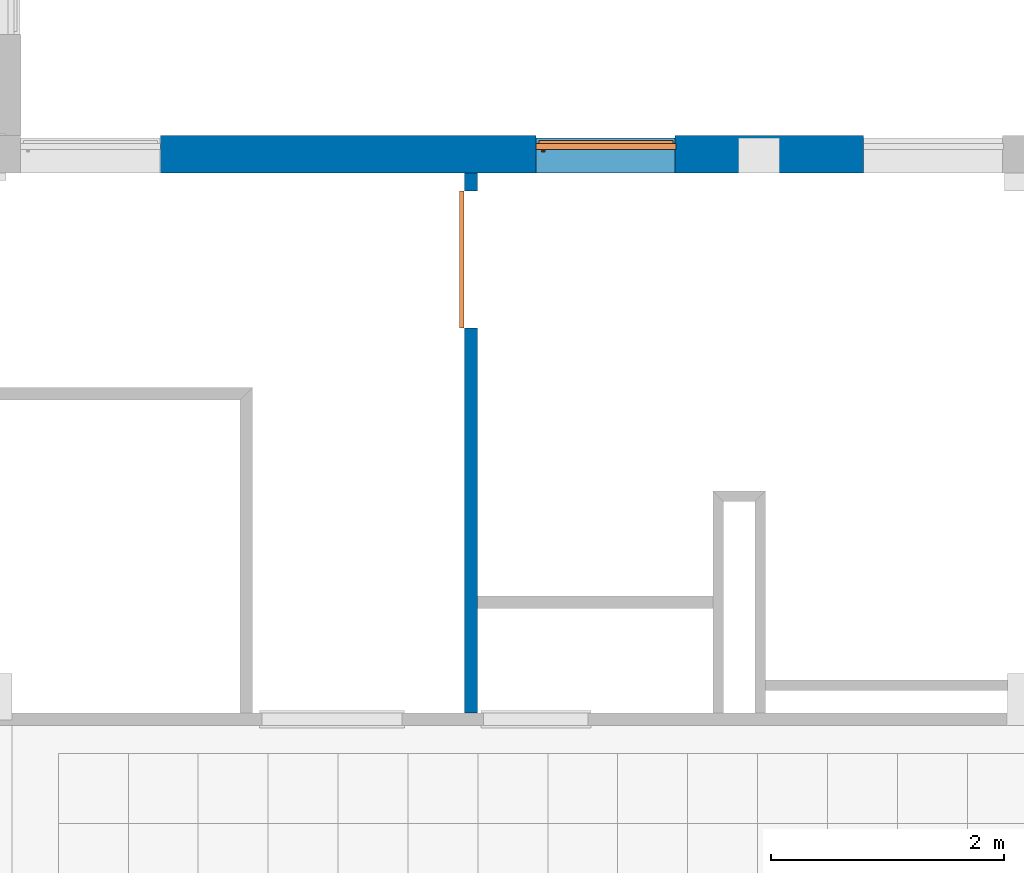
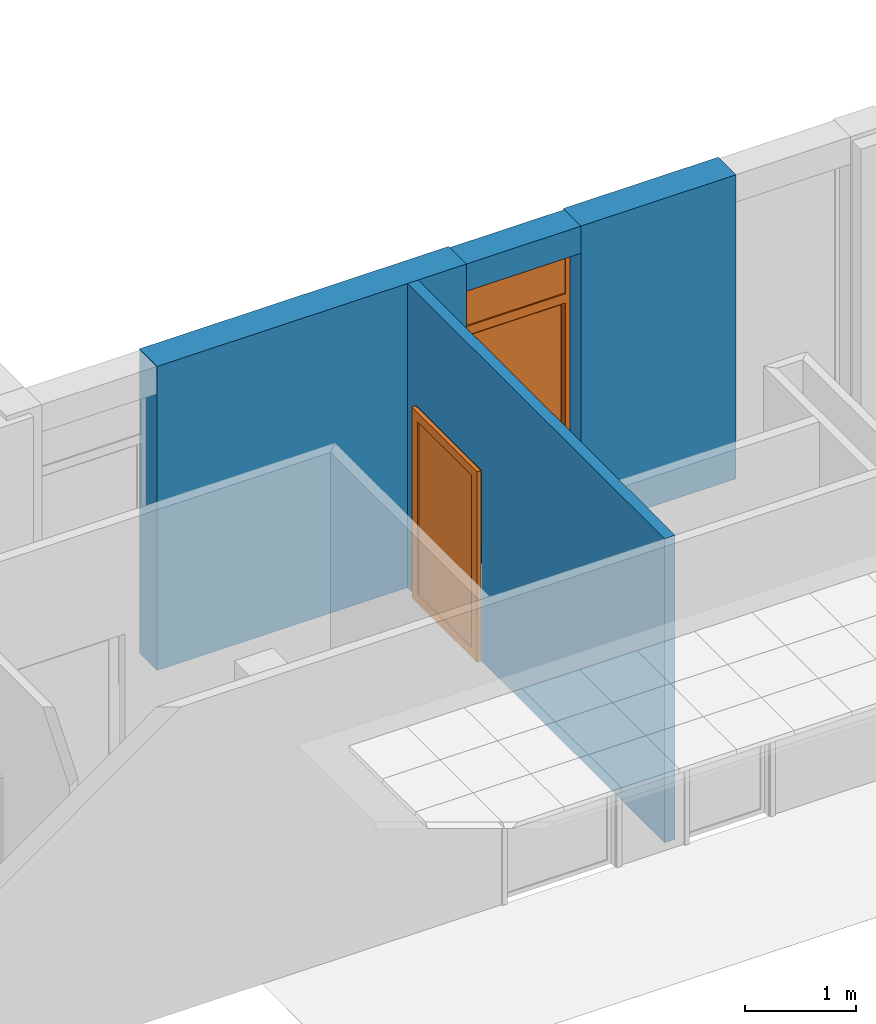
# One storey, part 25 of 60: 4 walls, 2 proxies, 2 openings.
"""IFC2X3 building model written with IfcOpenShell, lengths in millimetres."""

from ifc_helpers import new_model, entity, si_unit, converted_unit, derived_unit, money_unit, direction, frame, origin_with_axes, origin_2d_with_axis, place, context, subcontext, project, spatial, polyline, rectangle, outline, extrude, open_shell, faceted_brep, surface_model, source, transform, mapped, material, layer, layer_set, layer_usage, type_object, element, fill, save


model = new_model("IFC2X3")

# Units and contexts
model_context = context("Model", 3, precision=0.01, world=origin_with_axes(), true_north=direction((0.0, 1.0)))
body_context = subcontext(model_context, "Body", "Model", "MODEL_VIEW")
ifc_project = project(units=[si_unit("LENGTHUNIT", "METRE", prefix="MILLI"), si_unit("AREAUNIT", "SQUARE_METRE"), si_unit("VOLUMEUNIT", "CUBIC_METRE"), converted_unit("PLANEANGLEUNIT", "DEGREE", entity("IfcPlaneAngleMeasure", 0.0174532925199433), si_unit("PLANEANGLEUNIT", "RADIAN"), dimensions=[0, 0, 0, 0, 0, 0, 0]), money_unit("USD"), converted_unit("TIMEUNIT", "Year", entity("IfcTimeMeasure", 31557600.0), si_unit("TIMEUNIT", "SECOND"), dimensions=[0, 0, 1, 0, 0, 0, 0]), si_unit("MASSUNIT", "GRAM", prefix="KILO"), si_unit("THERMODYNAMICTEMPERATUREUNIT", "DEGREE_CELSIUS"), si_unit("LUMINOUSINTENSITYUNIT", "LUMEN"), si_unit("ENERGYUNIT", "JOULE", prefix="MEGA"), derived_unit("THERMALCONDUCTANCEUNIT", [(si_unit("POWERUNIT", "WATT"), 1), (si_unit("LENGTHUNIT", "METRE"), -1), (si_unit("THERMODYNAMICTEMPERATUREUNIT", "KELVIN"), -1)]), derived_unit("SPECIFICHEATCAPACITYUNIT", [(si_unit("ENERGYUNIT", "JOULE"), 1), (si_unit("MASSUNIT", "GRAM", prefix="KILO"), -1), (si_unit("THERMODYNAMICTEMPERATUREUNIT", "KELVIN"), -1)]), derived_unit("MASSDENSITYUNIT", [(si_unit("MASSUNIT", "GRAM", prefix="KILO"), 1), (si_unit("VOLUMEUNIT", "CUBIC_METRE"), -1)])], contexts=[model_context])

# Site, building, storey
site_placement = place(None, origin_with_axes())
site = spatial("IfcSite", under=ifc_project, at=site_placement, Name="Sitio", CompositionType="ELEMENT")
building_placement = place(site_placement, origin_with_axes())
building = spatial("IfcBuilding", under=site, at=building_placement, Name="Construcción", CompositionType="ELEMENT")
storey_placement = place(building_placement, frame((0.0, 0.0, 3650.0), z_axis=(0.0, 0.0, 1.0), x_axis=(1.0, 0.0, 0.0)))
storey = spatial("IfcBuildingStorey", under=building, at=storey_placement, Name="PLANTA 2ª", CompositionType="ELEMENT", Elevation=3650.0)

# Wall, opening, proxy
ifc_material_1 = material(Name="ARQ_AM246_Arrebossat_De_Guix")
ifc_layer_1 = layer(ifc_material_1, 20.0, ventilated="UNKNOWN")
ifc_material_2 = material(Name="ARQ_CE217_Gero")
ifc_layer_2 = layer(ifc_material_2, 110.0, ventilated="UNKNOWN")
ifc_material_3 = material(Name="ARQ_AI031_Aillament_Poliestireno expandido EPS")
ifc_layer_3 = layer(ifc_material_3, 100.0, ventilated="UNKNOWN")
ifc_material_4 = material(Name="ARQ_CE218_Ceramic")
ifc_layer_4 = layer(ifc_material_4, 50.0, ventilated="UNKNOWN")
ifc_layer_5 = layer(ifc_material_1, 20.0, ventilated="UNKNOWN")
ifc_layer_set_1 = layer_set([ifc_layer_1, ifc_layer_2, ifc_layer_3, ifc_layer_4, ifc_layer_5], Name="façana pati CR3 (ampit)")
ifc_layer_usage_1 = layer_usage(ifc_layer_set_1, "AXIS2", "POSITIVE", -300.0000000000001)
wall_type_1 = type_object("IfcWallType", Name="façana pati CR3 (ampit) 300", PredefinedType="NOTDEFINED")
wall_1_placement = place(storey_placement, frame((-22076.10900490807, -12338.97582371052, 0.0), z_axis=(0.0, 0.0, 1.0), x_axis=(-1.0, 0.0, 0.0)))
wall_1 = element("IfcWallStandardCase", 1, at=wall_1_placement, inside=storey, type_object=wall_type_1, material=ifc_layer_usage_1, Name="MS-201", context=body_context, shape_type="SweptSolid", body=[
    extrude(outline(polyline([(0.0, -300.0000000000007), (1194.999999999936, -300.0000000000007), (1194.999999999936, 0.0), (0.0, 0.0), (0.0, -300.0000000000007)])), origin_with_axes(), (0.0, 0.0, 1.0), 3350.0),
])
opening_1_placement = place(wall_1_placement, frame((594.9999999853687, 0.0, 49.99999999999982), z_axis=(0.0, 0.0, 1.0), x_axis=(1.0, 0.0, 0.0)))
opening_1 = element("IfcOpeningElement", 2, at=opening_1_placement, cuts=wall_1, Name="V - 008", context=body_context, shape_type="SweptSolid", body=[
    extrude(rectangle(XDim=1200.000000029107, YDim=3000.0, at=origin_2d_with_axis()), frame((0.0, -250.0, 1500.0), z_axis=(0.0, -1.0, 0.0), x_axis=(-1.0, 0.0, 0.0)), (0.0, 0.0, -1.0), 550.0),
    extrude(rectangle(XDim=1200.000000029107, YDim=3000.0, at=origin_2d_with_axis()), frame((0.0, -250.0, 1500.0), z_axis=(0.0, 1.0, 0.0), x_axis=(-1.0, 0.0, 0.0)), (0.0, 0.0, -1.0), 350.0000000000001),
])
building_element_proxy_type_1 = type_object("IfcBuildingElementProxyType", Name="Ventana Vertical Multi-Faja 27", PredefinedType="NOTDEFINED")
shared_shape_1 = source(origin_with_axes(), body_context, "Body", "SurfaceModel", [
    faceted_brep([(-575.0000000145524, 0.0, 925.0), (-550.0000000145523, 0.0, 925.0), (-550.0000000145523, 0.0, 850.0), (-550.0000000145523, 0.0, 50.00000000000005), (-600.0000000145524, 0.0, 50.00000000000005), (-600.0000000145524, 0.0, 2950.0), (-550.0000000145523, 0.0, 2950.0), (-550.0000000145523, 0.0, 2450.0), (-550.0000000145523, 0.0, 2375.0), (-575.0000000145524, 0.0, 2375.0), (-575.0000000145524, -25.00000000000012, 925.0), (-550.0000000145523, -25.00000000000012, 925.0), (-550.0000000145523, -25.00000000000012, 950.0000000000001), (-550.0000000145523, -50.00000000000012, 950.0000000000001), (-550.0000000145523, -50.00000000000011, 850.0), (-550.0000000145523, -50.00000000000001, 50.00000000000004), (-600.0000000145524, -50.00000000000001, 50.00000000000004), (-600.0000000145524, -50.00000000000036, 2950.0), (-550.0000000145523, -50.00000000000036, 2950.0), (-550.0000000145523, -50.0000000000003, 2450.0), (-550.0000000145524, -25.00000000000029, 2375.0), (-550.0000000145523, -50.00000000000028, 2350.0), (-550.0000000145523, -25.00000000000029, 2350.0), (-575.0000000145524, -25.00000000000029, 2375.0)], [[[0, 1, 2, 3, 4, 5, 6, 7, 8, 9]], [[0, 10, 11, 1]], [[11, 12, 13, 14, 2, 1]], [[3, 2, 14, 15]], [[4, 3, 15, 16]], [[5, 4, 16, 17]], [[6, 5, 17, 18]], [[7, 6, 18, 19]], [[20, 8, 7, 19, 21, 22]], [[20, 23, 9, 8]], [[9, 23, 10, 0]], [[22, 12, 11, 10, 23, 20]], [[22, 21, 13, 12]], [[17, 16, 15, 14, 13, 21, 19, 18]]]),
    faceted_brep([(575.0000000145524, 0.0, 925.0), (575.0000000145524, 0.0, 2375.0), (550.0000000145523, 0.0, 2375.0), (550.0000000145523, 0.0, 2450.0), (550.0000000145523, 0.0, 2950.0), (600.0000000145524, 0.0, 2950.0), (600.0000000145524, 0.0, 50.00000000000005), (550.0000000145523, 0.0, 50.00000000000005), (550.0000000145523, 0.0, 850.0), (550.0000000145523, 0.0, 925.0), (575.0000000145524, -25.00000000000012, 925.0), (575.0000000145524, -25.00000000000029, 2375.0), (550.0000000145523, -25.00000000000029, 2375.0), (550.0000000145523, -25.00000000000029, 2350.0), (550.0000000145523, -50.00000000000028, 2350.0), (550.0000000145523, -50.0000000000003, 2450.0), (550.0000000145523, -50.00000000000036, 2950.0), (600.0000000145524, -50.00000000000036, 2950.0), (600.0000000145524, -50.00000000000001, 50.00000000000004), (550.0000000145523, -50.00000000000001, 50.00000000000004), (550.0000000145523, -50.00000000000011, 850.0), (550.0000000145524, -25.00000000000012, 925.0), (550.0000000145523, -50.00000000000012, 950.0000000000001), (550.0000000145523, -25.00000000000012, 950.0000000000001)], [[[0, 1, 2, 3, 4, 5, 6, 7, 8, 9]], [[0, 10, 11, 1]], [[1, 11, 12, 2]], [[12, 13, 14, 15, 3, 2]], [[4, 3, 15, 16]], [[5, 4, 16, 17]], [[6, 5, 17, 18]], [[7, 6, 18, 19]], [[8, 7, 19, 20]], [[21, 9, 8, 20, 22, 23]], [[9, 21, 10, 0]], [[12, 11, 10, 21, 23, 13]], [[23, 22, 14, 13]], [[14, 22, 20, 19, 18, 17, 16, 15]]]),
    faceted_brep([(-550.0000000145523, -25.00000000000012, 950.0000000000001), (-550.0000000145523, -50.00000000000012, 950.0000000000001), (550.0000000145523, -50.00000000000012, 950.0000000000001), (550.0000000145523, -25.00000000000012, 950.0000000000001), (-550.0000000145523, -25.00000000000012, 925.0), (-550.0000000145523, 0.0, 925.0), (-550.0000000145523, 0.0, 850.0), (-550.0000000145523, -50.00000000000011, 850.0), (550.0000000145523, -50.00000000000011, 850.0), (550.0000000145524, -25.00000000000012, 925.0), (550.0000000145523, 0.0, 850.0), (550.0000000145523, 0.0, 925.0)], [[[0, 1, 2, 3]], [[4, 5, 6, 7, 1, 0]], [[1, 7, 8, 2]], [[9, 3, 2, 8, 10, 11]], [[9, 4, 0, 3]], [[5, 4, 9, 11]], [[11, 10, 6, 5]], [[6, 10, 8, 7]]]),
    faceted_brep([(-550.0000000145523, 0.0, 2375.0), (-550.0000000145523, 0.0, 2450.0), (550.0000000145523, 0.0, 2450.0), (550.0000000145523, 0.0, 2375.0), (-550.0000000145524, -25.00000000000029, 2375.0), (-550.0000000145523, -25.00000000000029, 2350.0), (-550.0000000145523, -50.00000000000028, 2350.0), (-550.0000000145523, -50.0000000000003, 2450.0), (550.0000000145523, -50.0000000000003, 2450.0), (550.0000000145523, -25.00000000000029, 2375.0), (550.0000000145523, -50.00000000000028, 2350.0), (550.0000000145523, -25.00000000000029, 2350.0)], [[[0, 1, 2, 3]], [[4, 5, 6, 7, 1, 0]], [[2, 1, 7, 8]], [[9, 3, 2, 8, 10, 11]], [[9, 4, 0, 3]], [[11, 5, 4, 9]], [[11, 10, 6, 5]], [[7, 6, 10, 8]]]),
    faceted_brep([(550.0000000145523, -50.00000000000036, 2950.0), (550.0000000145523, 0.0, 2950.0), (600.0000000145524, 0.0, 2950.0), (600.0000000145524, -50.00000000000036, 2950.0), (-550.0000000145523, -50.00000000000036, 2950.0), (-550.0000000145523, 0.0, 2950.0), (-600.0000000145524, 0.0, 2950.0), (-600.0000000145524, 0.0, 3000.0), (600.0000000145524, 0.0, 3000.0), (600.0000000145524, -50.00000000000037, 3000.0), (-600.0000000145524, -50.00000000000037, 3000.0), (-600.0000000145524, -50.00000000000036, 2950.0)], [[[0, 1, 2, 3]], [[4, 5, 1, 0]], [[1, 5, 6, 7, 8, 2]], [[3, 2, 8, 9]], [[0, 3, 9, 10, 11, 4]], [[11, 6, 5, 4]], [[10, 7, 6, 11]], [[9, 8, 7, 10]]]),
    faceted_brep([(-550.0000000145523, -50.00000000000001, 50.0), (-550.0000000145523, 0.0, 50.00000000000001), (-600.0000000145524, 0.0, 50.00000000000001), (-600.0000000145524, -50.00000000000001, 50.0), (550.0000000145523, -50.00000000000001, 50.0), (550.0000000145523, 0.0, 50.00000000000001), (600.0000000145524, 0.0, 50.00000000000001), (600.0000000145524, 0.0, 0.0), (-600.0000000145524, 0.0, 0.0), (-600.0000000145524, -50.0, 0.0), (600.0000000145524, -50.0, 0.0), (600.0000000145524, -50.00000000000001, 50.0)], [[[0, 1, 2, 3]], [[4, 5, 1, 0]], [[1, 5, 6, 7, 8, 2]], [[3, 2, 8, 9]], [[0, 3, 9, 10, 11, 4]], [[11, 6, 5, 4]], [[10, 7, 6, 11]], [[9, 8, 7, 10]]]),
    surface_model("IfcShellBasedSurfaceModel", [(-550.0000000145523, -35.0, 49.99999999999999), (550.0000000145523, -35.0, 49.99999999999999), (550.0000000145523, -35.0000000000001, 850.0), (-550.0000000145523, -35.0000000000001, 850.0)], [open_shell([[[0, 1, 2, 3]]])]),
    surface_model("IfcShellBasedSurfaceModel", [(-550.0000000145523, -15.0, 49.99999999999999), (-550.0000000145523, -15.0000000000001, 850.0), (550.0000000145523, -15.0000000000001, 850.0), (550.0000000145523, -15.0, 49.99999999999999)], [open_shell([[[0, 1, 2, 3]]])]),
    faceted_brep([(-521.5000000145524, -25.00000000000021, 1677.0), (-522.839745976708, -25.00000000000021, 1682.0), (-522.839745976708, -37.00000000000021, 1682.0), (-521.5000000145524, -37.00000000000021, 1677.0), (-521.5000000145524, -25.0000000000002, 1623.0), (-522.839745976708, -25.0000000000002, 1618.0), (-526.5000000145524, -25.0000000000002, 1614.339745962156), (-531.5000000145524, -25.0000000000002, 1613.0), (-543.5000000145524, -25.0000000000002, 1613.0), (-548.5000000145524, -25.0000000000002, 1614.339745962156), (-552.1602540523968, -25.0000000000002, 1618.0), (-553.5000000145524, -25.0000000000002, 1623.0), (-553.5000000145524, -25.00000000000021, 1677.0), (-552.1602540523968, -25.00000000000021, 1682.0), (-548.5000000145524, -25.00000000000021, 1685.660254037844), (-543.5000000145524, -25.00000000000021, 1687.0), (-531.5000000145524, -25.00000000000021, 1687.0), (-526.5000000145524, -25.00000000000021, 1685.660254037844), (-526.5000000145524, -37.00000000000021, 1685.660254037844), (-531.5000000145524, -37.00000000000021, 1687.0), (-543.5000000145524, -37.00000000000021, 1687.0), (-548.5000000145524, -37.00000000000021, 1685.660254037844), (-552.1602540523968, -37.00000000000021, 1682.0), (-553.5000000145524, -37.00000000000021, 1677.0), (-553.5000000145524, -37.0000000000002, 1623.0), (-552.1602540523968, -37.0000000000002, 1618.0), (-548.5000000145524, -37.0000000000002, 1614.339745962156), (-543.5000000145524, -37.0000000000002, 1613.0), (-531.5000000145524, -37.0000000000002, 1613.0), (-526.5000000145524, -37.0000000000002, 1614.339745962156), (-522.839745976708, -37.0000000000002, 1618.0), (-521.5000000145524, -37.0000000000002, 1623.0)], [[[0, 1, 2, 3]], [[0, 4, 5, 6, 7, 8, 9, 10, 11, 12, 13, 14, 15, 16, 17, 1]], [[1, 17, 18, 2]], [[3, 2, 18, 19, 20, 21, 22, 23, 24, 25, 26, 27, 28, 29, 30, 31]], [[4, 0, 3, 31]], [[5, 4, 31, 30]], [[6, 5, 30, 29]], [[7, 6, 29, 28]], [[8, 7, 28, 27]], [[9, 8, 27, 26]], [[10, 9, 26, 25]], [[11, 10, 25, 24]], [[12, 11, 24, 23]], [[13, 12, 23, 22]], [[14, 13, 22, 21]], [[15, 14, 21, 20]], [[16, 15, 20, 19]], [[17, 16, 19, 18]]]),
    faceted_brep([(-537.5000000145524, -37.0000000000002, 1663.5), (-544.2500000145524, -37.0000000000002, 1661.69134295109), (-544.2500000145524, -61.00000000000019, 1661.69134295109), (-537.5000000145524, -61.00000000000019, 1663.5), (-530.7500000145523, -37.0000000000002, 1661.69134295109), (-525.8086570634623, -37.0000000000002, 1656.75), (-524.0000000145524, -37.0000000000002, 1650.0), (-525.8086570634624, -37.0000000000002, 1643.25), (-530.7500000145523, -37.0000000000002, 1638.30865704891), (-537.5000000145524, -37.0000000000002, 1636.5), (-544.2500000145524, -37.0000000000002, 1638.30865704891), (-549.1913429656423, -37.0000000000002, 1643.25), (-551.0000000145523, -37.0000000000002, 1650.0), (-549.1913429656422, -37.0000000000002, 1656.75), (-549.1913429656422, -61.00000000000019, 1656.75), (-551.0000000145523, -61.00000000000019, 1650.0), (-549.1913429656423, -61.00000000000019, 1643.25), (-544.2500000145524, -61.00000000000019, 1638.30865704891), (-537.5000000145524, -61.00000000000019, 1636.5), (-530.7500000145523, -61.00000000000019, 1638.30865704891), (-525.8086570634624, -61.00000000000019, 1643.25), (-524.0000000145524, -61.00000000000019, 1650.0), (-525.8086570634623, -61.00000000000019, 1656.75), (-530.7500000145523, -61.00000000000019, 1661.69134295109)], [[[0, 1, 2, 3]], [[0, 4, 5, 6, 7, 8, 9, 10, 11, 12, 13, 1]], [[1, 13, 14, 2]], [[3, 2, 14, 15, 16, 17, 18, 19, 20, 21, 22, 23]], [[4, 0, 3, 23]], [[5, 4, 23, 22]], [[6, 5, 22, 21]], [[7, 6, 21, 20]], [[8, 7, 20, 19]], [[9, 8, 19, 18]], [[10, 9, 18, 17]], [[11, 10, 17, 16]], [[12, 11, 16, 15]], [[13, 12, 15, 14]]]),
    faceted_brep([(-526.0000000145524, -61.00000000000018, 1543.0), (-537.5000000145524, -61.00000000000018, 1540.0), (-549.0000000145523, -61.00000000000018, 1543.0), (-551.0000000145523, -61.00000000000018, 1546.0), (-551.0000000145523, -61.00000000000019, 1650.0), (-549.1913429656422, -61.00000000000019, 1656.75), (-544.2500000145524, -61.00000000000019, 1661.69134295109), (-537.5000000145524, -61.00000000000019, 1663.5), (-530.7500000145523, -61.00000000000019, 1661.69134295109), (-525.8086570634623, -61.00000000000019, 1656.75), (-524.0000000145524, -61.00000000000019, 1650.0), (-524.0000000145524, -61.00000000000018, 1546.0), (-525.9999999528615, -69.00000000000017, 1543.000000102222), (-537.4999999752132, -69.00000000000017, 1539.999999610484), (-548.9999999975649, -69.00000000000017, 1543.000000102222), (-551.0000003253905, -69.00000000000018, 1545.999999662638), (-551.0000003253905, -69.0000000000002, 1649.99999994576), (-549.1913430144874, -69.0000000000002, 1656.749999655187), (-544.2499996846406, -69.0000000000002, 1661.691342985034), (-537.4999999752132, -69.0000000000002, 1663.500000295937), (-530.7500002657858, -69.0000000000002, 1661.691342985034), (-525.808656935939, -69.0000000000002, 1656.749999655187), (-523.9999996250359, -69.0000000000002, 1649.99999994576), (-523.9999996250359, -69.00000000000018, 1545.999999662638), (-527.8625374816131, -71.99999956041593, 1545.61451963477), (-537.4999999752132, -71.99999956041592, 1543.100398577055), (-547.1374624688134, -71.99999956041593, 1545.61451963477), (-548.0000007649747, -71.99999956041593, 1546.908326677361), (-548.0000007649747, -71.99999956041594, 1649.605042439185), (-546.5016170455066, -71.99999956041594, 1655.197085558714), (-542.6970855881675, -71.99999956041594, 1659.001617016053), (-537.4999999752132, -71.99999956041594, 1660.394172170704), (-532.302914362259, -71.99999956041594, 1659.001617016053), (-528.4983829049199, -71.99999956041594, 1655.197085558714), (-526.9999991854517, -71.99999956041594, 1649.605042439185), (-526.9999991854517, -71.99999956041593, 1546.908326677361)], [[[0, 1, 2, 3, 4, 5, 6, 7, 8, 9, 10, 11]], [[1, 0, 12, 13]], [[2, 1, 13, 14]], [[3, 2, 14, 15]], [[4, 3, 15, 16]], [[5, 4, 16, 17]], [[6, 5, 17, 18]], [[7, 6, 18, 19]], [[8, 7, 19, 20]], [[9, 8, 20, 21]], [[10, 9, 21, 22]], [[11, 10, 22, 23]], [[0, 11, 23, 12]], [[13, 12, 24, 25]], [[14, 13, 25, 26]], [[15, 14, 26, 27]], [[16, 15, 27, 28]], [[17, 16, 28, 29]], [[18, 17, 29, 30]], [[19, 18, 30, 31]], [[20, 19, 31, 32]], [[21, 20, 32, 33]], [[22, 21, 33, 34]], [[23, 22, 34, 35]], [[12, 23, 35, 24]], [[26, 25, 24, 35, 34, 33, 32, 31, 30, 29, 28, 27]]]),
    faceted_brep([(-525.0000000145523, -25.00000000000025, 2325.0), (-525.0000000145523, 24.99999999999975, 2325.0), (-575.0000000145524, 24.99999999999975, 2325.0), (-575.0000000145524, -25.00000000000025, 2325.0), (-525.0000000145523, -25.00000000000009, 975.0000000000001), (-525.0000000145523, 24.99999999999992, 975.0000000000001), (-575.0000000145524, 24.99999999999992, 975.0000000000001), (-575.0000000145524, -25.00000000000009, 975.0000000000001)], [[[0, 1, 2, 3]], [[4, 5, 1, 0]], [[1, 5, 6, 2]], [[3, 2, 6, 7]], [[0, 3, 7, 4]], [[7, 6, 5, 4]]]),
    faceted_brep([(525.0000000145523, -25.00000000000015, 975.0000000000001), (525.0000000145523, 24.99999999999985, 975.0000000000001), (575.0000000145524, 24.99999999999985, 975.0000000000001), (575.0000000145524, -25.00000000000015, 975.0000000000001), (525.0000000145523, -25.00000000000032, 2325.0), (525.0000000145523, 24.99999999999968, 2325.0), (575.0000000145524, 24.99999999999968, 2325.0), (575.0000000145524, -25.00000000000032, 2325.0)], [[[0, 1, 2, 3]], [[4, 5, 1, 0]], [[1, 5, 6, 2]], [[3, 2, 6, 7]], [[0, 3, 7, 4]], [[7, 6, 5, 4]]]),
    faceted_brep([(575.0000000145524, -25.00000000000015, 925.0), (575.0000000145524, 24.99999999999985, 925.0), (575.0000000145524, 24.99999999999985, 975.0000000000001), (575.0000000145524, -25.00000000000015, 975.0000000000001), (-575.0000000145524, -25.00000000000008, 925.0), (-575.0000000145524, 24.99999999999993, 925.0), (-575.0000000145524, 24.99999999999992, 975.0000000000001), (-525.0000000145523, 24.99999999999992, 975.0000000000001), (525.0000000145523, 24.99999999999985, 975.0000000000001), (525.0000000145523, -25.00000000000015, 975.0000000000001), (-525.0000000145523, -25.00000000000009, 975.0000000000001), (-575.0000000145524, -25.00000000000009, 975.0000000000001)], [[[0, 1, 2, 3]], [[4, 5, 1, 0]], [[1, 5, 6, 7, 8, 2]], [[3, 2, 8, 9]], [[0, 3, 9, 10, 11, 4]], [[11, 6, 5, 4]], [[10, 7, 6, 11]], [[9, 8, 7, 10]]]),
    faceted_brep([(-575.0000000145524, -25.00000000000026, 2375.0), (-575.0000000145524, 24.99999999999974, 2375.0), (-575.0000000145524, 24.99999999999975, 2325.0), (-575.0000000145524, -25.00000000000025, 2325.0), (575.0000000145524, -25.00000000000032, 2375.0), (575.0000000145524, 24.99999999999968, 2375.0), (575.0000000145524, 24.99999999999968, 2325.0), (525.0000000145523, 24.99999999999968, 2325.0), (-525.0000000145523, 24.99999999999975, 2325.0), (-525.0000000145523, -25.00000000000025, 2325.0), (525.0000000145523, -25.00000000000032, 2325.0), (575.0000000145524, -25.00000000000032, 2325.0)], [[[0, 1, 2, 3]], [[4, 5, 1, 0]], [[1, 5, 6, 7, 8, 2]], [[3, 2, 8, 9]], [[0, 3, 9, 10, 11, 4]], [[11, 6, 5, 4]], [[10, 7, 6, 11]], [[9, 8, 7, 10]]]),
    surface_model("IfcShellBasedSurfaceModel", [(-525.0000000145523, -10.00000000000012, 975.0000000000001), (525.0000000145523, -10.00000000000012, 975.0000000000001), (525.0000000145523, -10.00000000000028, 2325.0), (-525.0000000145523, -10.00000000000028, 2325.0)], [open_shell([[[0, 1, 2, 3]]])]),
    surface_model("IfcShellBasedSurfaceModel", [(-525.0000000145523, 9.999999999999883, 975.0000000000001), (-525.0000000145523, 9.99999999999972, 2325.0), (525.0000000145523, 9.99999999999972, 2325.0), (525.0000000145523, 9.999999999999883, 975.0000000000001)], [open_shell([[[0, 1, 2, 3]]])]),
    surface_model("IfcShellBasedSurfaceModel", [(-550.0000000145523, -35.0000000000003, 2450.0), (550.0000000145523, -35.0000000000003, 2450.0), (550.0000000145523, -35.00000000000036, 2950.0), (-550.0000000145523, -35.00000000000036, 2950.0)], [open_shell([[[0, 1, 2, 3]]])]),
    surface_model("IfcShellBasedSurfaceModel", [(-550.0000000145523, -15.0000000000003, 2450.0), (-550.0000000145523, -15.00000000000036, 2950.0), (550.0000000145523, -15.00000000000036, 2950.0), (550.0000000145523, -15.0000000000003, 2450.0)], [open_shell([[[0, 1, 2, 3]]])]),
])
proxy_1_placement = place(opening_1_placement, frame((600.0000000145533, 0.0, 0.0), z_axis=(0.0, 0.0, 1.0), x_axis=(-1.0, 0.0, 0.0)))
proxy_1 = element("IfcBuildingElementProxy", 3, at=proxy_1_placement, inside=storey, type_object=building_element_proxy_type_1, Name="V - 008", context=body_context, shape_type="MappedRepresentation", body=[
    mapped(shared_shape_1, transform((600.0000000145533, 250.0, 0.0))),
])
fill(opening_1, proxy_1)

# Walls
ifc_layer_6 = layer(ifc_material_2, 150.0, ventilated="UNKNOWN")
ifc_layer_7 = layer(ifc_material_3, 100.0, ventilated="UNKNOWN")
ifc_layer_8 = layer(ifc_material_4, 50.0, ventilated="UNKNOWN")
ifc_layer_9 = layer(ifc_material_1, 20.0, ventilated="UNKNOWN")
ifc_layer_set_2 = layer_set([ifc_layer_6, ifc_layer_7, ifc_layer_8, ifc_layer_9], Name="façana pati CR3")
ifc_layer_usage_2 = layer_usage(ifc_layer_set_2, "AXIS2", "POSITIVE", -320.0)
wall_type_2 = type_object("IfcWallType", Name="façana pati CR3 320", PredefinedType="NOTDEFINED")
wall_2_placement = place(storey_placement, frame((-23271.109004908, -12338.97582371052, 0.0), z_axis=(0.0, 0.0, 1.0), x_axis=(-1.0, 0.0, 0.0)))
element("IfcWallStandardCase", 4, at=wall_2_placement, inside=storey, type_object=wall_type_2, material=ifc_layer_usage_2, Name="MS-201", context=body_context, shape_type="SweptSolid", body=[
    extrude(outline(polyline([(0.0, -320.0000000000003), (3221.416870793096, -320.0000000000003), (3221.416870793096, 0.0), (0.0, 0.0), (0.0, -320.0000000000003)])), origin_with_axes(), (0.0, 0.0, 1.0), 3350.0),
])
ifc_layer_usage_3 = layer_usage(ifc_layer_set_2, "AXIS2", "POSITIVE", -320.0)
wall_3_placement = place(storey_placement, frame((-20461.10900490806, -12338.97582371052, 0.0), z_axis=(0.0, 0.0, 1.0), x_axis=(-1.0, 0.0, 0.0)))
element("IfcWallStandardCase", 5, at=wall_3_placement, inside=storey, type_object=wall_type_2, material=ifc_layer_usage_3, Name="MS-201", context=body_context, shape_type="SweptSolid", body=[
    extrude(outline(polyline([(0.0, -320.0000000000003), (1615.000000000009, -320.0000000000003), (1615.000000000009, 0.0), (0.0, 0.0), (0.0, -320.0000000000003)])), origin_with_axes(), (0.0, 0.0, 1.0), 3350.0),
])

# Wall, opening, proxy
ifc_layer_10 = layer(ifc_material_1, 10.0, ventilated="UNKNOWN")
ifc_layer_11 = layer(ifc_material_2, 90.0, ventilated="UNKNOWN")
ifc_layer_12 = layer(ifc_material_1, 10.0, ventilated="UNKNOWN")
ifc_layer_set_3 = layer_set([ifc_layer_10, ifc_layer_11, ifc_layer_12], Name="CR Enva Totxana")
ifc_layer_usage_4 = layer_usage(ifc_layer_set_3, "AXIS2", "POSITIVE", 0.0)
wall_type_3 = type_object("IfcWallType", Name="CR Enva Totxana 110", PredefinedType="NOTDEFINED")
wall_4_placement = place(storey_placement, frame((-23772.67583112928, -17083.97582371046, 0.0), z_axis=(0.0, 0.0, 1.0), x_axis=(0.0, 1.0, 0.0)))
wall_4 = element("IfcWallStandardCase", 6, at=wall_4_placement, inside=storey, type_object=wall_type_3, material=ifc_layer_usage_4, Name="MS-201", context=body_context, shape_type="SweptSolid", body=[
    extrude(outline(polyline([(110.000000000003, 0.0), (4744.999999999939, 0.0), (4744.999999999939, 109.9999999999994), (110.000000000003, 109.9999999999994), (110.000000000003, 0.0)])), origin_with_axes(), (0.0, 0.0, 1.0), 3350.0),
])
opening_2_placement = place(wall_4_placement, frame((3999.999835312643, 0.0, 0.0), z_axis=(0.0, 0.0, 1.0), x_axis=(1.0, 0.0, 0.0)))
opening_2 = element("IfcOpeningElement", 7, at=opening_2_placement, cuts=wall_4, Name="PF-13D", context=body_context, shape_type="SweptSolid", body=[
    extrude(rectangle(XDim=1174.000000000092, YDim=2100.0, at=origin_2d_with_axis()), frame((0.0, -109.9999999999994, 1050.0), z_axis=(0.0, -1.0, 0.0), x_axis=(-1.0, 0.0, 0.0)), (0.0, 0.0, -1.0), 329.9999999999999),
])
building_element_proxy_type_2 = type_object("IfcBuildingElementProxyType", Name="Puerta Corredera Exterior 27", PredefinedType="NOTDEFINED")
shared_shape_2 = source(origin_with_axes(), body_context, "Body", "SurfaceModel", [
    faceted_brep([(-587.0000000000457, 44.99999999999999, 100.0), (-487.0000000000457, 44.99999999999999, 100.0), (-487.0000000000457, 4.99999999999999, 100.0), (-587.0000000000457, 4.99999999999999, 100.0), (-587.0000000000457, 44.99999999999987, 2000.0), (-487.0000000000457, 44.99999999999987, 2000.0), (-487.0000000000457, 4.999999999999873, 2000.0), (-587.0000000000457, 4.999999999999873, 2000.0)], [[[0, 1, 2, 3]], [[0, 4, 5, 1]], [[1, 5, 6, 2]], [[3, 2, 6, 7]], [[4, 0, 3, 7]], [[5, 4, 7, 6]]]),
    faceted_brep([(587.0000000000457, 44.99999999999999, 100.0), (587.0000000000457, 44.99999999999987, 2000.0), (587.0000000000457, 4.999999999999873, 2000.0), (587.0000000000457, 4.99999999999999, 100.0), (487.0000000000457, 44.99999999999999, 100.0), (487.0000000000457, 44.99999999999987, 2000.0), (487.0000000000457, 4.999999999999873, 2000.0), (487.0000000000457, 4.99999999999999, 100.0)], [[[0, 1, 2, 3]], [[0, 4, 5, 1]], [[1, 5, 6, 2]], [[3, 2, 6, 7]], [[4, 0, 3, 7]], [[5, 4, 7, 6]]]),
    faceted_brep([(-587.0000000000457, 45.0, 0.0), (587.0000000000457, 45.0, 0.0), (587.0000000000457, 4.999999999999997, 0.0), (-587.0000000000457, 4.999999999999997, 0.0), (-587.0000000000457, 44.99999999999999, 100.0), (-487.0000000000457, 44.99999999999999, 100.0), (487.0000000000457, 44.99999999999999, 100.0), (587.0000000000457, 44.99999999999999, 100.0), (587.0000000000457, 4.99999999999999, 100.0), (487.0000000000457, 4.99999999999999, 100.0), (-487.0000000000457, 4.99999999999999, 100.0), (-587.0000000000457, 4.99999999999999, 100.0)], [[[0, 1, 2, 3]], [[0, 4, 5, 6, 7, 1]], [[1, 7, 8, 2]], [[3, 2, 8, 9, 10, 11]], [[4, 0, 3, 11]], [[5, 4, 11, 10]], [[6, 5, 10, 9]], [[7, 6, 9, 8]]]),
    faceted_brep([(-587.0000000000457, 44.99999999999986, 2100.0), (-587.0000000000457, 44.99999999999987, 2000.0), (-587.0000000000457, 4.999999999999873, 2000.0), (-587.0000000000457, 4.999999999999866, 2100.0), (587.0000000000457, 44.99999999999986, 2100.0), (587.0000000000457, 44.99999999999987, 2000.0), (487.0000000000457, 44.99999999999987, 2000.0), (-487.0000000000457, 44.99999999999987, 2000.0), (-487.0000000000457, 4.999999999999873, 2000.0), (487.0000000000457, 4.999999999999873, 2000.0), (587.0000000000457, 4.999999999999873, 2000.0), (587.0000000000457, 4.999999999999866, 2100.0)], [[[0, 1, 2, 3]], [[0, 4, 5, 6, 7, 1]], [[1, 7, 8, 2]], [[3, 2, 8, 9, 10, 11]], [[4, 0, 3, 11]], [[5, 4, 11, 10]], [[6, 5, 10, 9]], [[7, 6, 9, 8]]]),
    surface_model("IfcShellBasedSurfaceModel", [(-487.0000000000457, 31.0, 100.0), (-487.0000000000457, 31.0, 2000.0), (487.0000000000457, 31.0, 2000.0), (487.0000000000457, 31.0, 100.0)], [open_shell([[[0, 1, 2, 3]]])]),
    surface_model("IfcShellBasedSurfaceModel", [(-487.0000000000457, 19.0, 100.0), (487.0000000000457, 19.0, 100.0), (487.0000000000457, 19.0, 2000.0), (-487.0000000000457, 19.0, 2000.0)], [open_shell([[[0, 1, 2, 3]]])]),
])
proxy_2_placement = place(opening_2_placement, frame((-587.0000000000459, 0.0, 0.0), z_axis=(0.0, 0.0, 1.0), x_axis=(1.0, 0.0, 0.0)))
proxy_2 = element("IfcBuildingElementProxy", 8, at=proxy_2_placement, inside=storey, type_object=building_element_proxy_type_2, Name="PF-13D", context=body_context, shape_type="MappedRepresentation", body=[
    mapped(shared_shape_2, transform((587.0000000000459, 109.9999999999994, 0.0))),
])
fill(opening_2, proxy_2)

save(model, "model.ifc")
